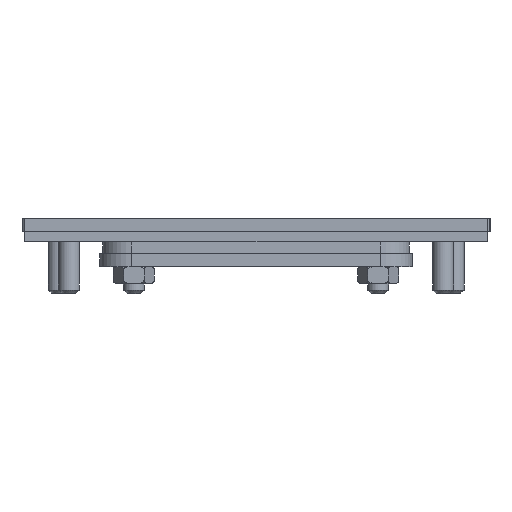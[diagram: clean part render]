
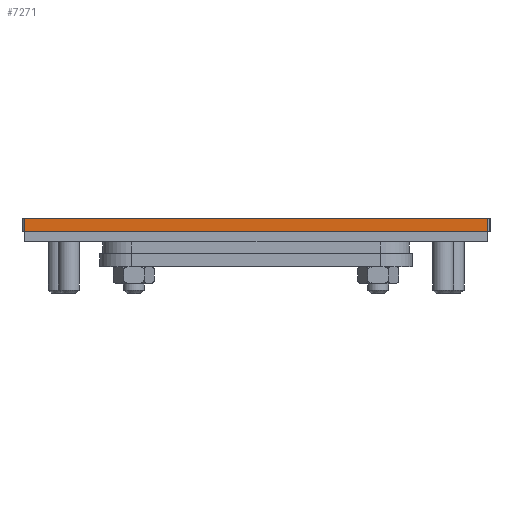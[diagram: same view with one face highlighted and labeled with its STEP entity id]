
A CAD part, left-side view. The second image highlights one B-rep face of the part: STEP entity #7271.
In plain terms, the highlighted planar face has unit normal (-1, 0, 0).
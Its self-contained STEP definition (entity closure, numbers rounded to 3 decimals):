
#1100=ORIENTED_EDGE('',*,*,#2308,.T.);
#1101=ORIENTED_EDGE('',*,*,#2201,.T.);
#1102=ORIENTED_EDGE('',*,*,#2306,.T.);
#1103=ORIENTED_EDGE('',*,*,#2309,.T.);
#2201=EDGE_CURVE('',#2834,#2833,#3431,.T.);
#2306=EDGE_CURVE('',#2833,#2934,#3442,.T.);
#2308=EDGE_CURVE('',#2935,#2834,#3444,.T.);
#2309=EDGE_CURVE('',#2934,#2935,#3445,.T.);
#2833=VERTEX_POINT('',#10707);
#2834=VERTEX_POINT('',#10709);
#2934=VERTEX_POINT('',#10966);
#2935=VERTEX_POINT('',#10970);
#3431=LINE('',#10708,#3505);
#3442=LINE('',#10965,#3516);
#3444=LINE('',#10969,#3518);
#3445=LINE('',#10971,#3519);
#3505=VECTOR('',#8665,1000.);
#3516=VECTOR('',#8968,1000.);
#3518=VECTOR('',#8972,1000.);
#3519=VECTOR('',#8973,1000.);
#3720=EDGE_LOOP('',(#1100,#1101,#1102,#1103));
#4824=FACE_BOUND('',#3720,.T.);
#5787=PLANE('',#7821);
#7271=ADVANCED_FACE('',(#4824),#5787,.T.);
#7821=AXIS2_PLACEMENT_3D('',#10968,#8970,#8971);
#8665=DIRECTION('',(0.,1.,0.));
#8968=DIRECTION('',(0.,0.,-1.));
#8970=DIRECTION('',(-1.,0.,0.));
#8971=DIRECTION('',(0.,1.,0.));
#8972=DIRECTION('',(0.,0.,1.));
#8973=DIRECTION('',(0.,-1.,0.));
#10707=CARTESIAN_POINT('',(-110.5,44.6,3.));
#10708=CARTESIAN_POINT('',(-110.5,-45.,3.));
#10709=CARTESIAN_POINT('',(-110.5,-44.6,3.));
#10965=CARTESIAN_POINT('',(-110.5,44.6,2.6));
#10966=CARTESIAN_POINT('',(-110.5,44.6,0.5));
#10968=CARTESIAN_POINT('',(-110.5,-45.,3.));
#10969=CARTESIAN_POINT('',(-110.5,-44.6,0.));
#10970=CARTESIAN_POINT('',(-110.5,-44.6,0.5));
#10971=CARTESIAN_POINT('',(-110.5,-45.,0.5));
